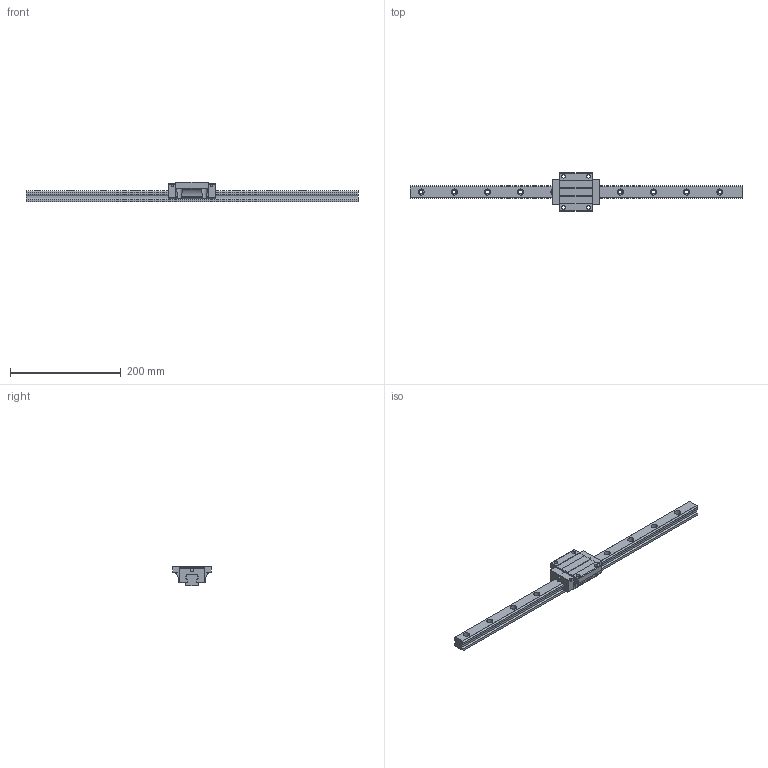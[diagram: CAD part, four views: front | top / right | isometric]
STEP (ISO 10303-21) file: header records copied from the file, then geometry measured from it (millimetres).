
FILE_DESCRIPTION (( 'STEP AP203' ), '1' );
FILE_NAME ('TRH25FN-SU.STEP', '2024-06-26T03:32:02', ( '' ), ( '' ), 'SwSTEP 2.0', 'SolidWorks 2022', '' );
FILE_SCHEMA (( 'CONFIG_CONTROL_DESIGN' ));
Length unit declared in the file: millimetre
Products named in the file (1): TRH25FN-SU
Bounding box: 600 x 70 x 36 mm (x, y, z)
Volume: 338400.4 mm3; surface area: 81344.9 mm2
Topology: 2 solids, 2 shells, 230 faces, 622 edges, 408 vertices
Faces by surface type: cylinder 130, plane 96, sphere 4
Entity records: 7853 total; most frequent: CARTESIAN_POINT 1797, DIRECTION 1276, ORIENTED_EDGE 1236, EDGE_CURVE 618, AXIS2_PLACEMENT_3D 459, VERTEX_POINT 408, VECTOR 358, LINE 358
